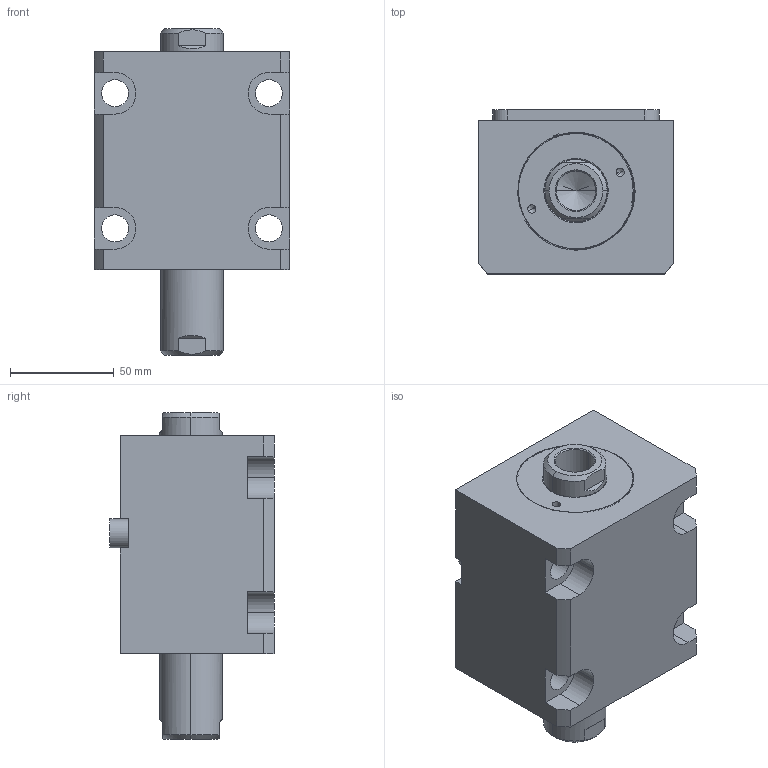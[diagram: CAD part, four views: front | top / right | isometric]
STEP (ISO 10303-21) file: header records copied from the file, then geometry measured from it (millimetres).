
FILE_DESCRIPTION (( 'STEP AP203' ), '1' );
FILE_NAME ('CHTB-LWM50-30N.STEP', '2018-05-22T08:29:31', ( '' ), ( '' ), 'SwSTEP 2.0', 'SolidWorks 2015', '' );
FILE_SCHEMA (( 'CONFIG_CONTROL_DESIGN' ));
Length unit declared in the file: millimetre
Products named in the file (4): 活塞杆LWM50-30N; CHTM-SDMA50QG; 掛极LWM50-30N; CHTB-LWM50-30N
Assembly tree (3 placements, depth 2):
  CHTB-LWM50-30N
    掛极LWM50-30N
    CHTM-SDMA50QG
    活塞杆LWM50-30N
Bounding box: 94 x 79 x 157 mm (x, y, z)
Volume: 658235.4 mm3; surface area: 114152.2 mm2
Topology: 3 solids, 3 shells, 213 faces, 571 edges, 374 vertices
Faces by surface type: cylinder 104, plane 57, cone 22, torus 16, bspline 14
Entity records: 11569 total; most frequent: CARTESIAN_POINT 6050, ORIENTED_EDGE 1126, DIRECTION 1011, EDGE_CURVE 563, AXIS2_PLACEMENT_3D 396, VERTEX_POINT 374, EDGE_LOOP 247, VECTOR 219
